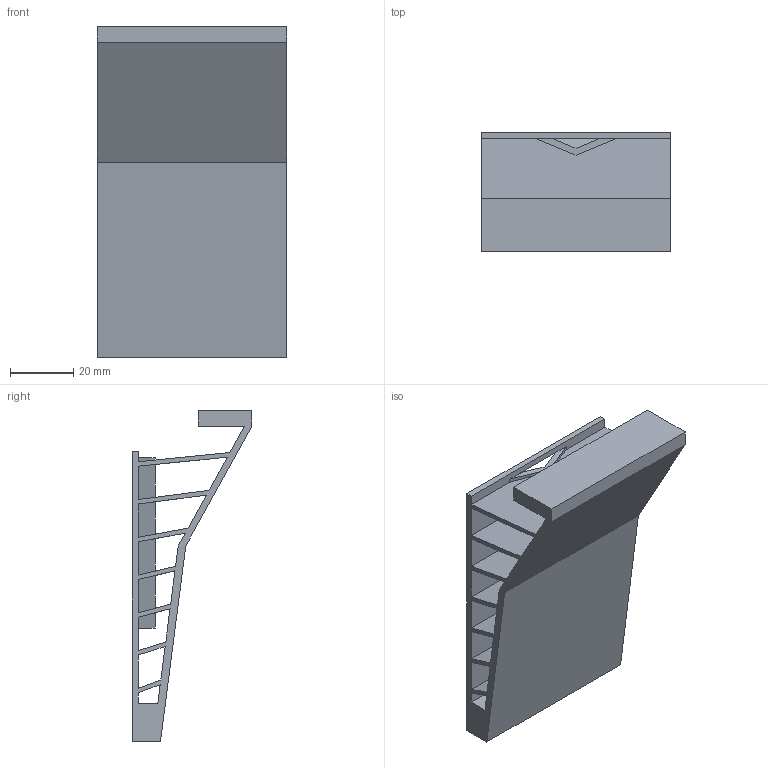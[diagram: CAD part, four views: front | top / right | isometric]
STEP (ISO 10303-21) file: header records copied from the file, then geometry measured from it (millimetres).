
FILE_DESCRIPTION(('Open CASCADE Model'),'2;1');
FILE_NAME('Open CASCADE Shape Model','2026-10-15T20:56:36',('Author'),( 'Open CASCADE'),'Open CASCADE STEP processor 7.9','Open CASCADE 7.9' ,'Unknown');
FILE_SCHEMA(('AUTOMOTIVE_DESIGN { 1 0 10303 214 1 1 1 1 }'));
Length unit declared in the file: millimetre
Products named in the file (1): Open CASCADE STEP translator 7.9 11
Bounding box: 60 x 38 x 105 mm (x, y, z)
Volume: 42835.9 mm3; surface area: 38349.2 mm2
Topology: 1 solids, 1 shells, 65 faces, 194 edges, 128 vertices
Faces by surface type: plane 65
Entity records: 4704 total; most frequent: CARTESIAN_POINT 776, DIRECTION 714, LINE 582, VECTOR 582, ORIENTED_EDGE 388, PCURVE 388, DEFINITIONAL_REPRESENTATION 388, EDGE_CURVE 194
